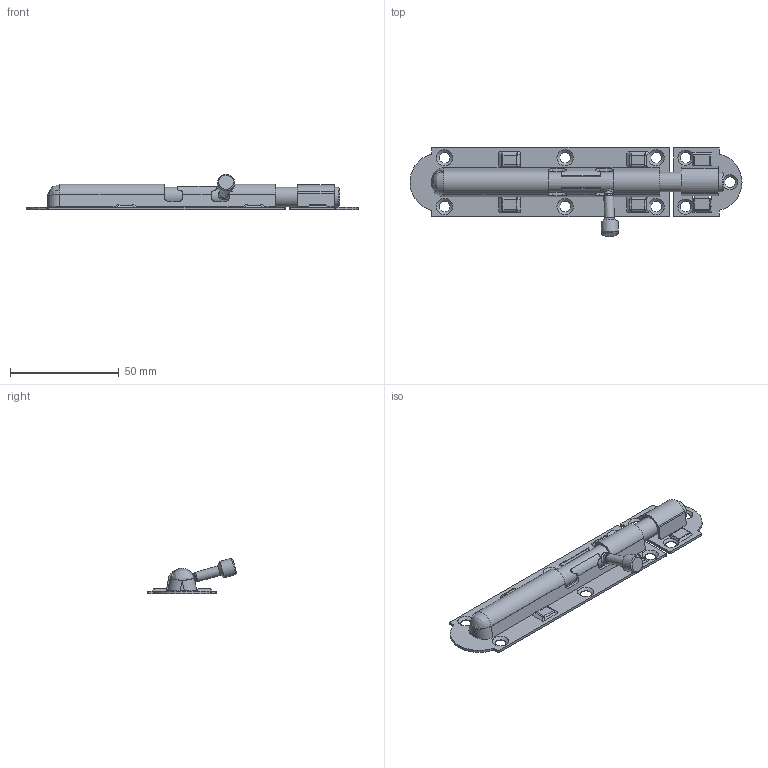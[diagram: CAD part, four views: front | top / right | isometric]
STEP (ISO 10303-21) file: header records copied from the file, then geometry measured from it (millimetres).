
FILE_DESCRIPTION(/* description */ (''),/* implementation_level */ '2;1');
FILE_NAME(/* name */ '\\NAS\db20\ODS3-6S\DR_ODS3-6S.stp',/* time_stamp */ '2017-09-01T11:09:07+09:00',/* author */ ('user'),/* organization */ (''),/* preprocessor_version */ 'ST-DEVELOPER v15.6',/* originating_system */ 'Autodesk Inventor 2015',/* authorisation */ '');
FILE_SCHEMA (('AUTOMOTIVE_DESIGN { 1 0 10303 214 3 1 1 }'));
Length unit declared in the file: millimetre
Products named in the file (4): DR_ODS3-6-BR; DR_ODS3-6-C; DR_ODS3-6-P; DR_ODS3-6S
Bounding box: 152.93 x 41.03 x 16.32 mm (x, y, z)
Volume: 14356.3 mm3; surface area: 18787.9 mm2
Topology: 5 solids, 5 shells, 354 faces, 935 edges, 580 vertices
Faces by surface type: plane 177, cylinder 135, sphere 16, cone 13, bspline 7, torus 6
Full cylindrical faces by diameter (mm): 4 x1, 4.5 x1, 5 x9, 7.8 x1, 9 x1
Entity records: 11260 total; most frequent: CARTESIAN_POINT 2471, DIRECTION 1854, ORIENTED_EDGE 1768, EDGE_CURVE 884, AXIS2_PLACEMENT_3D 644, LINE 566, VECTOR 566, VERTEX_POINT 563
